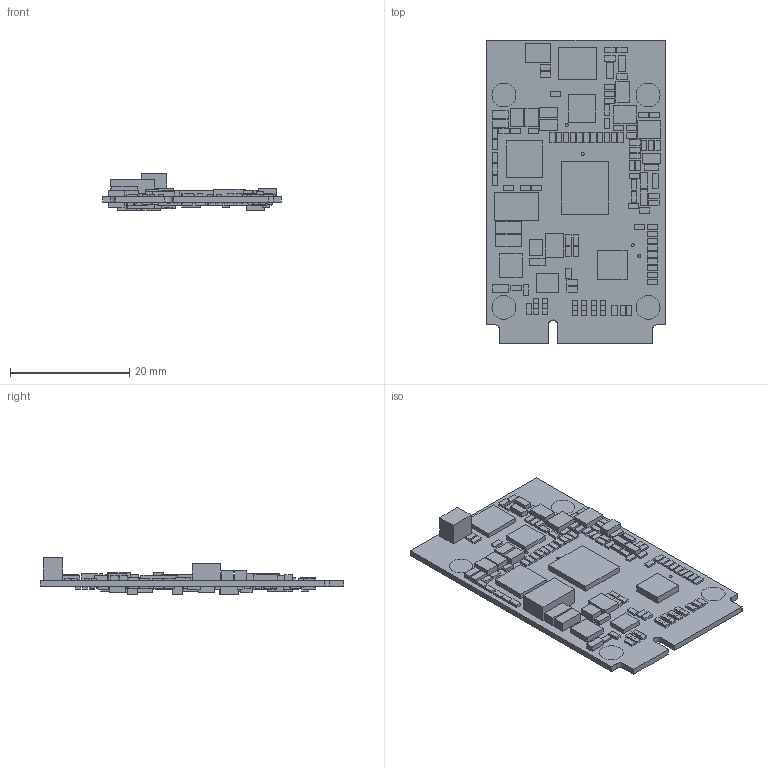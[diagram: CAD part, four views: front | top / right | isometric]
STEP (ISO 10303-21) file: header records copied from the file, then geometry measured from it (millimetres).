
FILE_DESCRIPTION((''),'2;1');
FILE_NAME('MINI_MYX-A02-107-10-12_ASM','2018-10-12T',('EmmaHsu'),(''),'PRO/ENGINEER BY PARAMETRIC TECHNOLOGY CORPORATION, 2016010','PRO/ENGINEER BY PARAMETRIC TECHNOLOGY CORPORATION, 2016010','');
FILE_SCHEMA(('AUTOMOTIVE_DESIGN { 1 0 10303 214 1 1 1 1 }'));
Length unit declared in the file: millimetre
Products named in the file (43): MANIFOLD_SOLID_BREP_515; MANIFOLD_SOLID_BREP_1001; MANIFOLD_SOLID_BREP_1487; MANIFOLD_SOLID_BREP_1973; MANIFOLD_SOLID_BREP_2459; MANIFOLD_SOLID_BREP_2945; BOARD_1_ASM; DFN8B-6X5X0P8M_1; CE-4X3_1; FCC-5X3_1; QFN28M-4X4X0P8M_1; OSC4PS-3P2X2P5-1_1; LOGO_AICORE_1; BT-POWER2X1-125_1; SCOILA-25X20_1; TS-SOD123-2P8X1P8X1P08M_1; QFN14F-4X3_1; L0603_1; L0402-2_1; TS-SOT323_1; BGA380G-8P8X8X1M_1; MH157D85_1; TP20_1; SCOILA-48P5X47_1; R1206_1; R0603_1; R0402_1; SLED-0603_1; L2520-1P2M_1; L0402_1; C1206_1; C0603_1; C0805_1; C0402_1; TS-SOT323_GSD_1; XTAL4PS-3P2X2P5_1; DFN10F-3X3-4_1; QFN32F-5X5-1_1; BGA64F-5X5_1; COMPONENTS_ASM_1_ASM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
Assembly tree (325 placements, depth 5):
  MINI_MYX-A02-107-10-12_ASM
    MINI_MYX-A02-181009A_ASM_1_ASM
      ASM0009_ASM_1_ASM
        BOARD_1_ASM
          MANIFOLD_SOLID_BREP_515
          MANIFOLD_SOLID_BREP_1001
          MANIFOLD_SOLID_BREP_1487
          MANIFOLD_SOLID_BREP_1973
          MANIFOLD_SOLID_BREP_2459
          MANIFOLD_SOLID_BREP_2945
        COMPONENTS_ASM_1_ASM
          DFN8B-6X5X0P8M_1
          CE-4X3_1
          FCC-5X3_1
          QFN28M-4X4X0P8M_1
          OSC4PS-3P2X2P5-1_1  x2
          LOGO_AICORE_1
          BT-POWER2X1-125_1
          SCOILA-25X20_1
          TS-SOD123-2P8X1P8X1P08M_1
          QFN14F-4X3_1
          L0603_1  x3
          L0402-2_1  x5
          TS-SOT323_1
          BGA380G-8P8X8X1M_1
          MH157D85_1  x4
          TP20_1  x4
          SCOILA-48P5X47_1
          R1206_1
          R0603_1  x6
          R0402_1  x131
          SLED-0603_1
          L2520-1P2M_1  x2
          L0402_1  x2
          C1206_1  x2
          C0603_1  x10
          C0805_1  x8
          C0402_1  x117
          TS-SOT323_GSD_1
          XTAL4PS-3P2X2P5_1
          DFN10F-3X3-4_1
          QFN32F-5X5-1_1
          BGA64F-5X5_1
Bounding box: 30 x 50.95 x 6.15 mm (x, y, z)
Surface area: 22316.5 mm2
Topology: 319 solids, 321 shells, 1982 faces, 4020 edges, 2680 vertices
Faces by surface type: plane 1948, cylinder 34
Entity records: 18115 total; most frequent: DIRECTION 3473, CARTESIAN_POINT 2992, AXIS2_PLACEMENT_3D 1364, ORIENTED_EDGE 1320, EDGE_CURVE 660, VECTOR 616, LINE 616, PROPERTY_DEFINITION 596
